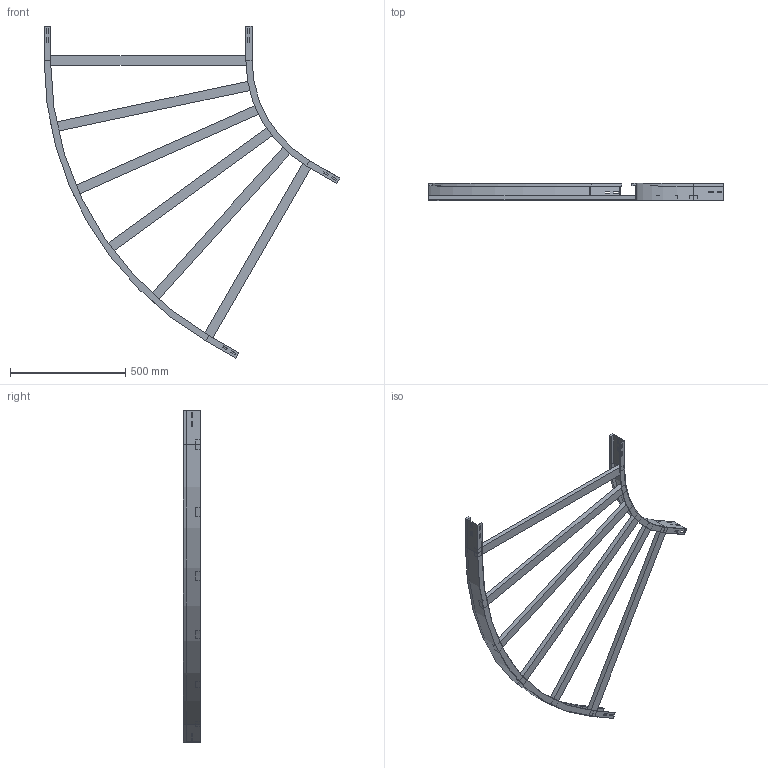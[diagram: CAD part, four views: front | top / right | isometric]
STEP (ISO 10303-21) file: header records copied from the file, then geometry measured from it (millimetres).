
FILE_DESCRIPTION (( 'STEP AP214' ), '1' );
FILE_NAME ('13B5C900.step', '2025-02-21T15:20:56', ( '' ), ( '' ), 'SwSTEP 2.0', 'SolidWorks 2023', '' );
FILE_SCHEMA (( 'AUTOMOTIVE_DESIGN' ));
Length unit declared in the file: millimetre
Products named in the file (4): TRAVERSINO_900; 13B5C900; A2_LONGH.INTERNO 60°_H75_R500; A2_LONGH.ESTERNO 60°_H75_R500+900
Assembly tree (8 placements, depth 2):
  13B5C900
    A2_LONGH.INTERNO 60°_H75_R500
    A2_LONGH.ESTERNO 60°_H75_R500+900
    TRAVERSINO_900  x6
Bounding box: 1279.9 x 75 x 1437.44 mm (x, y, z)
Volume: 5364784.7 mm3; surface area: 1269875.4 mm2
Topology: 8 solids, 8 shells, 152 faces, 376 edges, 240 vertices
Faces by surface type: plane 144, cylinder 8
Entity records: 3845 total; most frequent: CARTESIAN_POINT 649, ORIENTED_EDGE 632, DIRECTION 598, EDGE_CURVE 316, LINE 300, VECTOR 300, VERTEX_POINT 200, EDGE_LOOP 154
